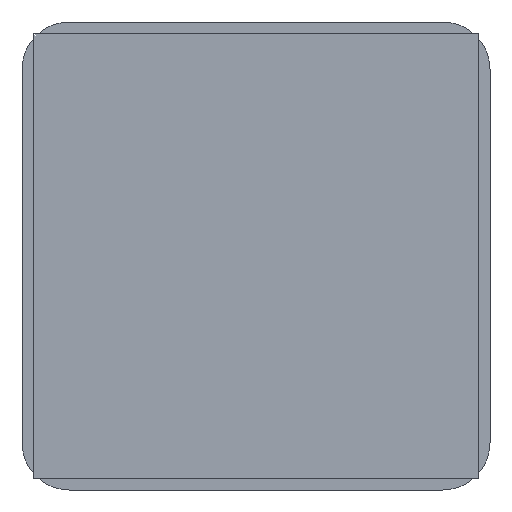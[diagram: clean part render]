
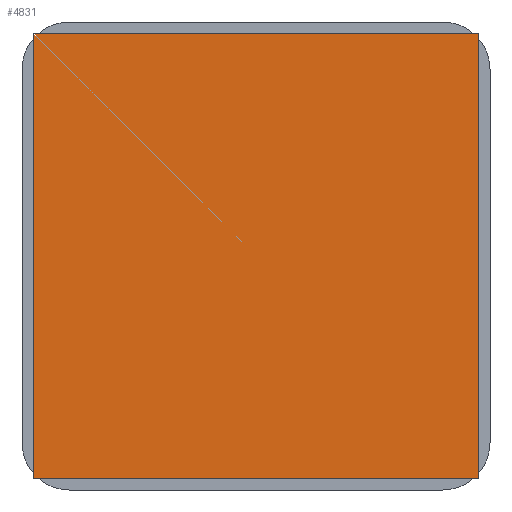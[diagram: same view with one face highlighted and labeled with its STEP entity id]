
A CAD part, front view. The second image highlights one B-rep face of the part: STEP entity #4831.
In plain terms, the highlighted planar face has unit normal (0, -1, 0).
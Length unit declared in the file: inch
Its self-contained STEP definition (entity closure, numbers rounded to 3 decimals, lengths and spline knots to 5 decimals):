
#260 = CARTESIAN_POINT ( 'NONE',  ( -0.61024, -0.005, 0.61024 ) ) ;
#656 = CARTESIAN_POINT ( 'NONE',  ( 0.61024, -0.005, -0.61024 ) ) ;
#712 = CARTESIAN_POINT ( 'NONE',  ( 0.61024, -0.005, 0.61024 ) ) ;
#770 = CARTESIAN_POINT ( 'NONE',  ( -0.61024, -0.005, -0.61024 ) ) ;
#939 = VECTOR ( 'NONE', #3680, 39.37008 ) ;
#1007 = EDGE_LOOP ( 'NONE', ( #1607, #2786, #5838, #2097 ) ) ;
#1064 = CARTESIAN_POINT ( 'NONE',  ( -0.61024, -0.005, 0.61024 ) ) ;
#1164 = DIRECTION ( 'NONE',  ( 0., 0., 1. ) ) ;
#1442 = EDGE_CURVE ( 'NONE', #1496, #4790, #2283, .T. ) ;
#1496 = VERTEX_POINT ( 'NONE', #1064 ) ;
#1607 = ORIENTED_EDGE ( 'NONE', *, *, #4827, .F. ) ;
#1887 = VECTOR ( 'NONE', #4409, 39.37008 ) ;
#2065 = DIRECTION ( 'NONE',  ( 0., 1., 0. ) ) ;
#2097 = ORIENTED_EDGE ( 'NONE', *, *, #1442, .F. ) ;
#2195 = EDGE_CURVE ( 'NONE', #5701, #3426, #5107, .T. ) ;
#2283 = LINE ( 'NONE', #5453, #939 ) ;
#2606 = EDGE_CURVE ( 'NONE', #4790, #5701, #5652, .T. ) ;
#2786 = ORIENTED_EDGE ( 'NONE', *, *, #2195, .F. ) ;
#2830 = CARTESIAN_POINT ( 'NONE',  ( -0.61024, -0.005, -0.61024 ) ) ;
#2890 = DIRECTION ( 'NONE',  ( -1., 0., 0. ) ) ;
#3026 = PLANE ( 'NONE',  #4057 ) ;
#3057 = LINE ( 'NONE', #3492, #1887 ) ;
#3347 = VECTOR ( 'NONE', #5229, 39.37008 ) ;
#3414 = CARTESIAN_POINT ( 'NONE',  ( 0.61024, -0.005, -0.61024 ) ) ;
#3426 = VERTEX_POINT ( 'NONE', #770 ) ;
#3460 = FACE_OUTER_BOUND ( 'NONE', #1007, .T. ) ;
#3492 = CARTESIAN_POINT ( 'NONE',  ( -0.61024, -0.005, -0.61024 ) ) ;
#3680 = DIRECTION ( 'NONE',  ( 1., 0., 0. ) ) ;
#4057 = AXIS2_PLACEMENT_3D ( 'NONE', #260, #2065, #1164 ) ;
#4409 = DIRECTION ( 'NONE',  ( 0., 0., 1. ) ) ;
#4411 = VECTOR ( 'NONE', #2890, 39.37008 ) ;
#4790 = VERTEX_POINT ( 'NONE', #712 ) ;
#4827 = EDGE_CURVE ( 'NONE', #3426, #1496, #3057, .T. ) ;
#4831 = ADVANCED_FACE ( 'NONE', ( #3460 ), #3026, .F. ) ;
#5107 = LINE ( 'NONE', #2830, #4411 ) ;
#5229 = DIRECTION ( 'NONE',  ( 0., 0., -1. ) ) ;
#5453 = CARTESIAN_POINT ( 'NONE',  ( -0.61024, -0.005, 0.61024 ) ) ;
#5652 = LINE ( 'NONE', #3414, #3347 ) ;
#5701 = VERTEX_POINT ( 'NONE', #656 ) ;
#5838 = ORIENTED_EDGE ( 'NONE', *, *, #2606, .F. ) ;
